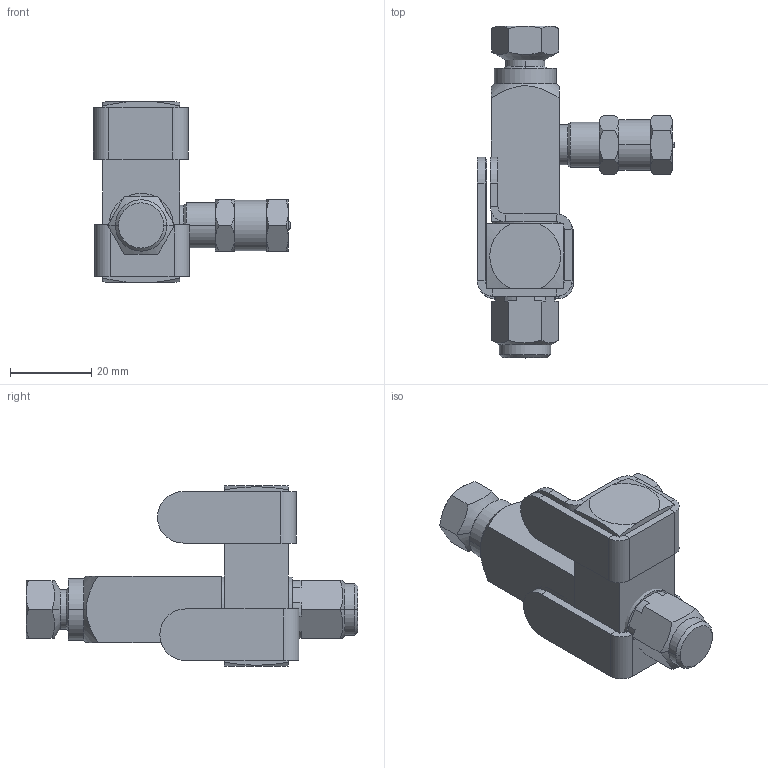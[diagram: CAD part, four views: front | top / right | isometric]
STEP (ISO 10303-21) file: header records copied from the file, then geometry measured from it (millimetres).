
FILE_DESCRIPTION((''),'2;1');
FILE_NAME('24F509-EN-F_PRT','2022-02-14T11:45:35',('qtmwp1'),(''),'CREO PARAMETRIC BY PTC INC, 2021072','CREO PARAMETRIC BY PTC INC, 2021072','');
FILE_SCHEMA(('CONFIG_CONTROL_DESIGN'));
Length unit declared in the file: inch
Products named in the file (1): 24F509-EN-F_PRT
Bounding box: 48.67 x 81.92 x 44.45 mm (x, y, z)
Surface area: 15698.6 mm2 (no closed solid volume)
Topology: 0 solids, 13 shells, 188 faces, 431 edges, 256 vertices
Faces by surface type: plane 99, cone 46, cylinder 41, bspline 2
Entity records: 5699 total; most frequent: CARTESIAN_POINT 1591, DIRECTION 843, ORIENTED_EDGE 812, EDGE_CURVE 431, AXIS2_PLACEMENT_3D 316, VERTEX_POINT 256, VECTOR 211, LINE 211
